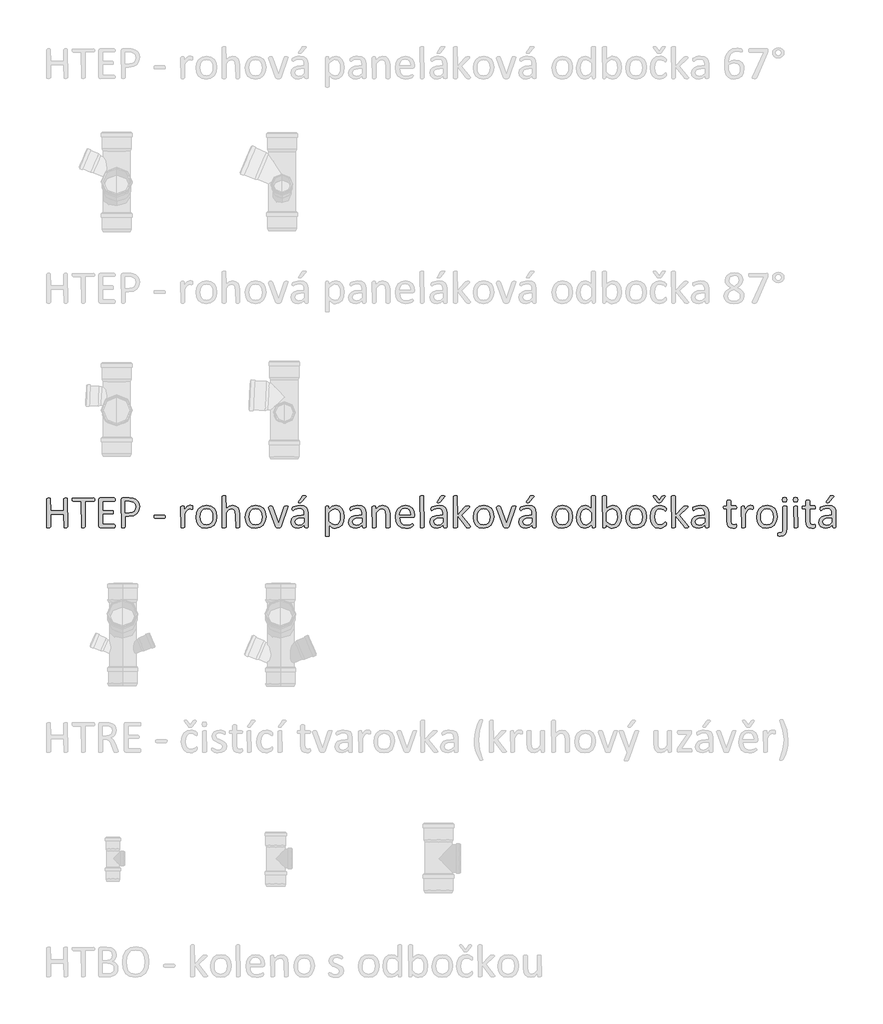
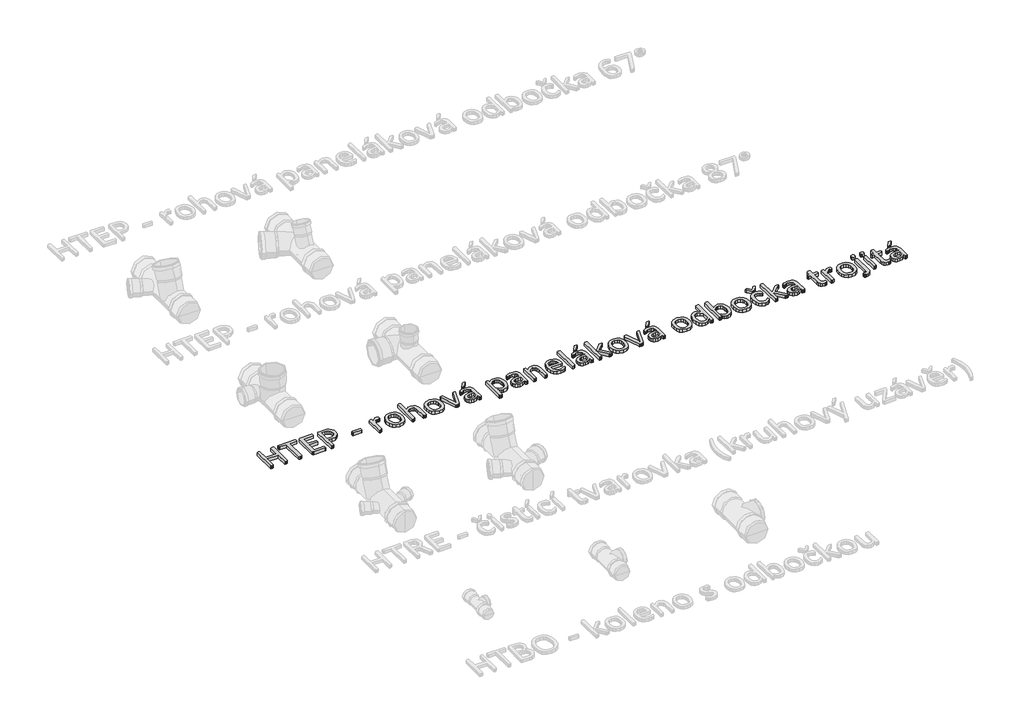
# One storey, part 9 of 26: 1 proxy.
"""IFC4 building model written with IfcOpenShell, lengths in millimetres."""

from ifc_helpers import new_model, si_unit, origin, origin_with_axes, place, context, project, spatial, polyline, outline, extrude, element, save

model = new_model("IFC4")

# Units and contexts
model_context = context("Model", 3, world=origin())
ifc_project = project(units=[si_unit("LENGTHUNIT", "METRE", prefix="MILLI")], contexts=[model_context])

# Site, building, storey
site = spatial("IfcSite", under=ifc_project)
building = spatial("IfcBuilding", under=site)
storey = spatial("IfcBuildingStorey", under=building, Name="Podlaží 1", Elevation=0.0)

# Proxy
placement = place(None, origin())
element("IfcBuildingElementProxy", 1, Name="120mm Arial", ObjectType="120mm Arial", at=placement, inside=storey, context=model_context, shape_type="SweptSolid", body=[
    extrude(outline(polyline([(-20465.0657483, 598.0506997), (-20469.2817655, 595.3184311), (-20473.1358927, 595.0832026), (-20477.1166815, 595.3184311), (-20479.5775327, 595.8612659), (-20481.2784151, 650.6694889), (-20534.5486061, 650.6694889), (-20534.5486061, 598.0145107), (-20538.7465288, 595.3184311), (-20542.6549395, 595.0832026), (-20546.5271613, 595.3184311), (-20549.0603905, 595.8793604), (-20550.7612729, 712.5526591), (-20546.5271613, 715.2849277), (-20542.6549395, 715.5201562), (-20538.7465288, 715.2849277), (-20536.2494886, 714.7239984), (-20534.5486061, 664.5660604), (-20481.2784151, 664.5660604), (-20481.2784151, 712.5526591), (-20477.1166815, 715.2849277), (-20473.1358927, 715.5201562), (-20469.2817655, 715.2849277), (-20466.7666308, 714.7239984), (-20465.0657483, 598.0506997)])), origin_with_axes(), (0.0, 0.0, 1.0), 15.0),
    extrude(outline(polyline([(-20356.2092711, 708.4633034), (-20356.390216, 705.3329559), (-20356.9873343, 703.1978056), (-20393.2667952, 701.6235846), (-20393.2667952, 598.0506997), (-20397.4647179, 595.3184311), (-20401.3731287, 595.0832026), (-20405.2453504, 595.3184311), (-20407.7785796, 595.8793604), (-20409.4794621, 701.6235846), (-20443.3885442, 701.6235846), (-20446.3017578, 705.3329559), (-20446.5369862, 708.4633034), (-20446.3017578, 711.6660289), (-20445.686545, 713.9097462), (-20359.3939021, 715.5201562), (-20357.0054288, 713.9097462), (-20356.390216, 711.6660289), (-20356.2092711, 708.4633034)])), origin_with_axes(), (0.0, 0.0, 1.0), 15.0),
    extrude(outline(polyline([(-20272.8298417, 601.9952994), (-20273.0107867, 598.9192354), (-20273.6621885, 596.7298016), (-20274.7478581, 595.463187), (-20334.0254212, 595.0832026), (-20338.0785879, 596.5307622), (-20339.9966043, 601.5972206), (-20339.9966043, 709.0061382), (-20338.0604934, 714.0725966), (-20333.9530432, 715.5201562), (-20276.0506617, 715.5201562), (-20273.680283, 713.8735572), (-20273.0650701, 711.6841234), (-20272.8298417, 708.4271144), (-20273.0650701, 705.3691449), (-20273.680283, 703.2159001), (-20323.7839374, 701.6235846), (-20323.7839374, 664.5660604), (-20282.9627585, 664.5660604), (-20280.5742852, 662.865178), (-20279.9590724, 660.6757442), (-20279.7781275, 657.3644517), (-20279.9590724, 654.2702932), (-20280.5742852, 652.1713319), (-20323.7839374, 650.6694889), (-20323.7839374, 608.9797742), (-20276.0868507, 608.9797742), (-20273.6621885, 607.3874587), (-20273.0107867, 605.2342139), (-20272.8298417, 601.9952994)])), origin_with_axes(), (0.0, 0.0, 1.0), 15.0),
    extrude(outline(polyline([(-20173.2377455, 680.4892153), (-20176.2052426, 664.3127375), (-20184.7096549, 652.0265759), (-20198.2805255, 644.1735655), (-20217.4606894, 641.4051078), (-20231.140127, 641.4051078), (-20231.140127, 598.0506997), (-20232.8771985, 595.8793604), (-20235.3380497, 595.3184311), (-20239.2464605, 595.0832026), (-20243.1548712, 595.3184311), (-20245.6519114, 595.8793604), (-20247.3527939, 708.6804373), (-20245.3985885, 713.9459352), (-20241.0197209, 715.5201562), (-20215.1807831, 715.5201562), (-20207.6896625, 715.1944553), (-20199.2033447, 713.8011792), (-20189.2151839, 709.838485), (-20180.6022047, 702.6911598), (-20175.1557619, 692.8477549), (-20173.2377455, 680.4892153)]), holes=[polyline([(-20189.4504124, 679.2226008), (-20192.2369645, 691.0021165), (-20199.1309668, 698.0408747), (-20207.6172846, 700.9902773), (-20216.1578858, 701.6235846), (-20231.140127, 701.6235846), (-20231.140127, 655.3016794), (-20216.5197757, 655.3016794), (-20204.3059921, 657.0930343), (-20196.1453752, 662.0509257), (-20191.1512948, 669.6325188), (-20189.4504124, 679.2226008)])]), origin_with_axes(), (0.0, 0.0, 1.0), 15.0),
    extrude(outline(polyline([(-20069.0134588, 640.2832492), (-20069.8639001, 635.7234367), (-20072.3428458, 634.4568221), (-20111.9335991, 634.4568221), (-20114.4849228, 635.7596256), (-20115.335364, 640.2832492), (-20114.4849228, 644.7706838), (-20111.9335991, 646.0372984), (-20072.3428458, 646.0372984), (-20069.2486873, 642.9974233), (-20069.0134588, 640.2832492)])), origin_with_axes(), (0.0, 0.0, 1.0), 15.0),
    extrude(outline(polyline([(-19957.8408864, 676.1465367), (-19957.9313588, 672.8533388), (-19958.2932487, 670.7181885), (-19961.8397696, 669.5058574), (-19964.1739593, 670.3382041), (-19967.0871729, 671.1343618), (-19970.5794103, 671.5143462), (-19974.9944669, 670.519149), (-19979.5361849, 667.2621401), (-19984.5121708, 661.254768), (-19990.26622, 652.0808594), (-19990.26622, 597.9059437), (-19994.3917647, 595.2641476), (-19998.4087424, 595.0832026), (-20002.3533421, 595.2641476), (-20004.8503823, 595.8069824), (-20006.4788868, 680.2720814), (-20002.751421, 682.9500666), (-19999.0963332, 683.0948225), (-19995.5136233, 682.9500666), (-19993.306095, 682.4072317), (-19991.8223465, 668.2573373), (-19985.5616515, 676.8341275), (-19980.0066418, 682.0634363), (-19974.8316164, 684.687138), (-19969.6384966, 685.4109178), (-19966.9967004, 685.2842563), (-19963.8844474, 684.795705), (-19960.9531394, 683.9814527), (-19959.107501, 683.0948225), (-19957.8770754, 679.4035457), (-19957.8408864, 676.1465367)])), origin_with_axes(), (0.0, 0.0, 1.0), 15.0),
    extrude(outline(polyline([(-19860.5648854, 639.9937373), (-19863.2428706, 621.0126129), (-19871.2587315, 606.0665606), (-19884.6124683, 596.2774393), (-19903.1955138, 592.7671074), (-19921.1090631, 595.8612659), (-19933.847587, 604.8542295), (-19941.4472746, 619.1850689), (-19943.9443148, 638.2928548), (-19941.3025186, 657.2739793), (-19933.3409412, 672.201937), (-19920.0414879, 681.9367749), (-19901.4222534, 685.4109178), (-19883.4906096, 682.3167593), (-19870.7520857, 673.3237956), (-19863.1162091, 658.9929562), (-19860.5648854, 639.9937373)]), holes=[polyline([(-19876.7775523, 638.9080676), (-19878.0260724, 651.4837411), (-19882.1335226, 661.8699808), (-19889.8598716, 668.9268335), (-19902.0374662, 671.5143462), (-19913.599848, 669.1439675), (-19921.5614255, 662.4490046), (-19926.2117105, 652.2075209), (-19927.731648, 639.2699575), (-19926.4831279, 626.6219061), (-19922.3394887, 616.2718554), (-19914.5588562, 609.2511916), (-19902.3993561, 606.6636789), (-19890.8731633, 609.0340577), (-19882.8573023, 615.6747371), (-19878.2432063, 625.8800318), (-19876.7775523, 638.9080676)])]), origin_with_axes(), (0.0, 0.0, 1.0), 15.0),
    extrude(outline(polyline([(-19767.921075, 597.9421327), (-19772.0466197, 595.2641476), (-19775.9912195, 595.0832026), (-19780.0081972, 595.2641476), (-19782.4509539, 595.8069824), (-19784.1337419, 646.2906213), (-19785.201317, 657.6539636), (-19788.2954755, 665.0908008), (-19793.5609734, 669.8677472), (-19801.0339995, 671.5143462), (-19812.0173575, 667.479274), (-19823.5073613, 655.6273803), (-19823.5073613, 597.9421327), (-19827.632906, 595.2641476), (-19831.6498837, 595.0832026), (-19835.5944834, 595.2641476), (-19838.0915236, 595.8250769), (-19839.7200281, 721.8170401), (-19835.5944834, 724.6035923), (-19831.6498837, 724.7845372), (-19827.632906, 724.6035923), (-19825.1901492, 724.0426629), (-19823.9054402, 723.1017492), (-19823.5073613, 671.7314801), (-19810.4793254, 682.0453419), (-19797.2703447, 685.4109178), (-19783.4461511, 682.5881767), (-19774.3808095, 675.0427726), (-19769.4229181, 663.9870366), (-19767.921075, 648.6790945), (-19767.921075, 597.9421327)])), origin_with_axes(), (0.0, 0.0, 1.0), 15.0),
    extrude(outline(polyline([(-19661.3806931, 639.9937373), (-19664.0586782, 621.0126129), (-19672.0745392, 606.0665606), (-19685.4282759, 596.2774393), (-19704.0113215, 592.7671074), (-19721.9248707, 595.8612659), (-19734.6633947, 604.8542295), (-19742.2630822, 619.1850689), (-19744.7601224, 638.2928548), (-19742.1183263, 657.2739793), (-19734.1567488, 672.201937), (-19720.8572956, 681.9367749), (-19702.238061, 685.4109178), (-19684.3064173, 682.3167593), (-19671.5678933, 673.3237956), (-19663.9320168, 658.9929562), (-19661.3806931, 639.9937373)]), holes=[polyline([(-19677.5933599, 638.9080676), (-19678.84188, 651.4837411), (-19682.9493302, 661.8699808), (-19690.6756792, 668.9268335), (-19702.8532738, 671.5143462), (-19714.4156556, 669.1439675), (-19722.3772331, 662.4490046), (-19727.0275181, 652.2075209), (-19728.5474556, 639.2699575), (-19727.2989355, 626.6219061), (-19723.1552963, 616.2718554), (-19715.3746638, 609.2511916), (-19703.2151637, 606.6636789), (-19691.6889709, 609.0340577), (-19683.67311, 615.6747371), (-19679.0590139, 625.8800318), (-19677.5933599, 638.9080676)])]), origin_with_axes(), (0.0, 0.0, 1.0), 15.0),
    extrude(outline(polyline([(-19572.0210334, 681.502507), (-19600.5108145, 598.3764006), (-19601.4879172, 596.7298016), (-19603.2973666, 595.7346044), (-19606.3553362, 595.2279586), (-19611.0056212, 595.0832026), (-19615.6197172, 595.2641476), (-19618.6414977, 595.8069824), (-19620.4509472, 596.8202741), (-19621.4642388, 598.3764006), (-19649.8364058, 676.6169936), (-19650.4335241, 678.5169155), (-19646.8327197, 683.00435), (-19643.2500099, 683.0948225), (-19638.9435203, 682.9500666), (-19636.44648, 682.4434207), (-19634.3475187, 680.1635145), (-19610.7884872, 612.2729721), (-19586.8675659, 680.1635145), (-19584.895266, 682.4434207), (-19582.4706038, 682.9500666), (-19578.4355316, 683.0948225), (-19574.9071052, 683.00435), (-19572.0210334, 681.502507)])), origin_with_axes(), (0.0, 0.0, 1.0), 15.0),
    extrude(outline(polyline([(-19515.5028807, 721.4913392), (-19514.1638881, 723.0836547), (-19512.3001552, 724.0607574), (-19509.5678866, 724.6035923), (-19505.6594758, 724.7845372), (-19501.3167972, 724.4769308), (-19499.000702, 723.5903006), (-19499.2540249, 720.6589925), (-19516.5523614, 699.8503242), (-19517.9456374, 698.4208591), (-19519.3751025, 697.5704179), (-19521.4740638, 697.1180555), (-19524.6948838, 696.9913941), (-19528.0242707, 697.2628115), (-19529.7613421, 697.9865913), (-19529.3632633, 700.8274268), (-19515.5028807, 721.4913392)])), origin_with_axes(), (0.0, 0.0, 1.0), 15.0),
    extrude(outline(polyline([(-19489.9896438, 597.8697547), (-19490.7858016, 596.1869668), (-19492.9571409, 595.35462), (-19497.0103076, 595.0832026), (-19501.1177578, 595.35462), (-19503.3433806, 596.1869668), (-19504.0309714, 597.8697547), (-19504.0309714, 606.1932221), (-19516.2266605, 596.5669512), (-19530.4851219, 592.7671074), (-19542.4455826, 594.4860843), (-19551.5471132, 599.4620702), (-19557.3916348, 607.4598367), (-19559.4725016, 618.2441552), (-19556.5954771, 630.5122223), (-19548.3443877, 639.1613906), (-19535.1896904, 644.3183214), (-19517.67422, 646.0372984), (-19506.2023107, 646.0372984), (-19506.2023107, 652.9493951), (-19507.2156023, 661.9966423), (-19510.4726113, 668.5468492), (-19516.2809439, 672.4914489), (-19525.0567736, 673.8304415), (-19535.0992179, 672.3828819), (-19542.8798504, 669.198251), (-19548.4710492, 666.01362), (-19551.8004361, 664.5660604), (-19554.6593662, 668.0944868), (-19554.8403111, 670.7543775), (-19554.5146102, 674.5542212), (-19552.9222947, 677.2141119), (-19548.5796161, 679.928286), (-19541.4865744, 682.6062712), (-19532.7107447, 684.61476), (-19523.1025683, 685.4109178), (-19507.7222482, 683.3662399), (-19497.46267, 677.3950568), (-19491.7629043, 667.6421245), (-19489.9896438, 654.0350648), (-19489.9896438, 597.8697547)]), holes=[polyline([(-19506.2023107, 634.4568221), (-19519.0855905, 634.4568221), (-19529.8337201, 633.3892469), (-19537.4153132, 630.2408049), (-19541.8484643, 625.2467245), (-19543.2598348, 618.5336671), (-19539.2066681, 608.1836164), (-19527.8433257, 604.3475837), (-19516.8418733, 607.4055532), (-19506.2023107, 616.7604067), (-19506.2023107, 634.4568221)])]), origin_with_axes(), (0.0, 0.0, 1.0), 15.0),
    extrude(outline(polyline([(-19344.0756425, 640.3556272), (-19346.3917377, 620.505967), (-19353.1952675, 605.5599148), (-19364.3233815, 596.0964943), (-19379.5046621, 592.7671074), (-19386.2177195, 593.5089816), (-19392.2612806, 595.8612659), (-19398.1238967, 599.8963381), (-19404.2941192, 605.6141983), (-19404.2941192, 563.3454598), (-19405.9769072, 561.083648), (-19408.4196639, 560.5227187), (-19412.4366416, 560.3417737), (-19416.3812414, 560.5227187), (-19418.8782816, 561.083648), (-19420.1629907, 562.0245617), (-19420.1629907, 680.1997034), (-19416.7793202, 682.9500666), (-19413.4137443, 683.0948225), (-19410.0300739, 682.9681611), (-19407.8225456, 682.4977042), (-19406.2483246, 669.8496527), (-19399.0648104, 676.6893716), (-19392.0984301, 681.5206015), (-19384.8968214, 684.4338151), (-19377.1161889, 685.4109178), (-19361.9168138, 681.8463024), (-19351.67533, 672.1114645), (-19345.9031864, 657.7444361), (-19344.0756425, 640.3556272)]), holes=[polyline([(-19360.2883093, 638.5823667), (-19361.229223, 650.8504338), (-19364.4681374, 661.3814295), (-19370.63836, 668.7458886), (-19380.2646309, 671.5143462), (-19385.9463021, 670.663905), (-19391.6098788, 667.9497309), (-19397.6353453, 663.0642174), (-19404.2941192, 655.6273803), (-19404.2941192, 622.080188), (-19392.6955484, 610.6263732), (-19381.1693556, 606.6636789), (-19371.5792737, 609.4321366), (-19365.1014447, 616.7965957), (-19361.4644514, 627.0923629), (-19360.2883093, 638.5823667)])]), origin_with_axes(), (0.0, 0.0, 1.0), 15.0),
    extrude(outline(polyline([(-19256.0640226, 597.8697547), (-19256.8601803, 596.1869668), (-19259.0315196, 595.35462), (-19263.0846863, 595.0832026), (-19267.1921365, 595.35462), (-19269.4177593, 596.1869668), (-19270.1053501, 597.8697547), (-19270.1053501, 606.1932221), (-19282.3010392, 596.5669512), (-19296.5595006, 592.7671074), (-19308.5199613, 594.4860843), (-19317.6214919, 599.4620702), (-19323.4660135, 607.4598367), (-19325.5468804, 618.2441552), (-19322.6698558, 630.5122223), (-19314.4187664, 639.1613906), (-19301.2640691, 644.3183214), (-19283.7485987, 646.0372984), (-19272.2766894, 646.0372984), (-19272.2766894, 652.9493951), (-19273.2899811, 661.9966423), (-19276.54699, 668.5468492), (-19282.3553227, 672.4914489), (-19291.1311524, 673.8304415), (-19301.1735967, 672.3828819), (-19308.9542292, 669.198251), (-19314.5454279, 666.01362), (-19317.8748148, 664.5660604), (-19320.7337449, 668.0944868), (-19320.9146899, 670.7543775), (-19320.588989, 674.5542212), (-19318.9966735, 677.2141119), (-19314.6539949, 679.928286), (-19307.5609531, 682.6062712), (-19298.7851234, 684.61476), (-19289.176947, 685.4109178), (-19273.7966269, 683.3662399), (-19263.5370487, 677.3950568), (-19257.837283, 667.6421245), (-19256.0640226, 654.0350648), (-19256.0640226, 597.8697547)]), holes=[polyline([(-19272.2766894, 634.4568221), (-19285.1599693, 634.4568221), (-19295.9080988, 633.3892469), (-19303.4896919, 630.2408049), (-19307.922843, 625.2467245), (-19309.3342136, 618.5336671), (-19305.2810469, 608.1836164), (-19293.9177045, 604.3475837), (-19282.916252, 607.4055532), (-19272.2766894, 616.7604067), (-19272.2766894, 634.4568221)])]), origin_with_axes(), (0.0, 0.0, 1.0), 15.0),
    extrude(outline(polyline([(-19158.7880217, 597.9421327), (-19162.9135663, 595.2641476), (-19166.8581661, 595.0832026), (-19170.8751438, 595.2641476), (-19173.3179005, 595.8069824), (-19175.0006885, 646.2906213), (-19176.0682636, 657.6539636), (-19179.1624222, 665.0908008), (-19184.42792, 669.8677472), (-19191.9009461, 671.5143462), (-19202.8843041, 667.479274), (-19214.3743079, 655.6273803), (-19214.3743079, 597.9421327), (-19218.4998526, 595.2641476), (-19222.5168303, 595.0832026), (-19226.46143, 595.2641476), (-19228.9584702, 595.8069824), (-19230.5869747, 680.2720814), (-19226.8595089, 682.9500666), (-19223.2044211, 683.0948225), (-19219.6217112, 682.9500666), (-19217.4141829, 682.4072317), (-19215.9304344, 669.3791959), (-19202.0881463, 681.5567905), (-19188.1734803, 685.4109178), (-19174.3492867, 682.5881767), (-19165.2658506, 675.0427726), (-19160.2898647, 663.9870366), (-19158.7880217, 648.7514725), (-19158.7880217, 597.9421327)])), origin_with_axes(), (0.0, 0.0, 1.0), 15.0),
    extrude(outline(polyline([(-19059.1959255, 643.3955022), (-19060.9872804, 638.2928548), (-19065.0947306, 636.7729173), (-19119.4144022, 636.7729173), (-19118.0573152, 623.3829916), (-19113.5517861, 613.1776969), (-19105.3368857, 606.6274899), (-19092.9602517, 604.3475837), (-19082.682579, 605.4151588), (-19074.8657575, 607.8217266), (-19069.4555037, 610.2282943), (-19066.2527782, 611.2958695), (-19063.9547775, 608.4007504), (-19063.828116, 605.7589542), (-19063.9185885, 603.8228433), (-19068.369834, 598.4306841), (-19074.7210015, 595.9336439), (-19083.7682486, 593.7442101), (-19094.7335121, 592.7671074), (-19112.411833, 595.6622265), (-19125.1684514, 604.2752057), (-19132.9852729, 618.6241396), (-19135.6270691, 638.6547447), (-19132.8586114, 658.1967985), (-19124.8789395, 672.8895278), (-19112.2851715, 682.1720033), (-19095.7468038, 685.4109178), (-19079.0998691, 682.2805703), (-19067.7908102, 673.848536), (-19061.2767923, 661.4176184), (-19059.1959255, 646.1820543), (-19059.1959255, 643.3955022)]), holes=[polyline([(-19075.4085923, 648.3533936), (-19076.5802108, 658.9793853), (-19080.6017121, 667.0450061), (-19087.3735766, 672.1340826), (-19096.7962845, 673.8304415), (-19106.4406499, 671.7314801), (-19113.3708412, 666.1402814), (-19117.6954253, 658.0158535), (-19119.4144022, 648.3533936), (-19075.4085923, 648.3533936)])]), origin_with_axes(), (0.0, 0.0, 1.0), 15.0),
    extrude(outline(polyline([(-19019.8223061, 597.9421327), (-19023.9478507, 595.2641476), (-19027.9648285, 595.0832026), (-19031.9094282, 595.2641476), (-19034.4064684, 595.8250769), (-19036.0349729, 721.8170401), (-19031.9094282, 724.6035923), (-19027.9648285, 724.7845372), (-19023.9478507, 724.6035923), (-19021.505094, 724.0426629), (-19019.8223061, 597.9421327)])), origin_with_axes(), (0.0, 0.0, 1.0), 15.0),
    extrude(outline(polyline([(-18952.6917325, 721.4913392), (-18951.3527399, 723.0836547), (-18949.489007, 724.0607574), (-18946.7567384, 724.6035923), (-18942.8483277, 724.7845372), (-18938.505649, 724.4769308), (-18936.1895538, 723.5903006), (-18936.4428767, 720.6589925), (-18953.7412132, 699.8503242), (-18955.1344892, 698.4208591), (-18956.5639543, 697.5704179), (-18958.6629156, 697.1180555), (-18961.8837356, 696.9913941), (-18965.2131225, 697.2628115), (-18966.950194, 697.9865913), (-18966.5521151, 700.8274268), (-18952.6917325, 721.4913392)])), origin_with_axes(), (0.0, 0.0, 1.0), 15.0),
    extrude(outline(polyline([(-18927.1784957, 597.8697547), (-18927.9746534, 596.1869668), (-18930.1459927, 595.35462), (-18934.1991594, 595.0832026), (-18938.3066096, 595.35462), (-18940.5322324, 596.1869668), (-18941.2198232, 597.8697547), (-18941.2198232, 606.1932221), (-18953.4155123, 596.5669512), (-18967.6739737, 592.7671074), (-18979.6344344, 594.4860843), (-18988.735965, 599.4620702), (-18994.5804866, 607.4598367), (-18996.6613535, 618.2441552), (-18993.7843289, 630.5122223), (-18985.5332395, 639.1613906), (-18972.3785422, 644.3183214), (-18954.8630718, 646.0372984), (-18943.3911625, 646.0372984), (-18943.3911625, 652.9493951), (-18944.4044542, 661.9966423), (-18947.6614631, 668.5468492), (-18953.4697958, 672.4914489), (-18962.2456255, 673.8304415), (-18972.2880697, 672.3828819), (-18980.0687023, 669.198251), (-18985.659901, 666.01362), (-18988.9892879, 664.5660604), (-18991.848218, 668.0944868), (-18992.0291629, 670.7543775), (-18991.703462, 674.5542212), (-18990.1111466, 677.2141119), (-18985.7684679, 679.928286), (-18978.6754262, 682.6062712), (-18969.8995965, 684.61476), (-18960.2914201, 685.4109178), (-18944.9111, 683.3662399), (-18934.6515218, 677.3950568), (-18928.9517561, 667.6421245), (-18927.1784957, 654.0350648), (-18927.1784957, 597.8697547)]), holes=[polyline([(-18943.3911625, 634.4568221), (-18956.2744424, 634.4568221), (-18967.0225719, 633.3892469), (-18974.604165, 630.2408049), (-18979.0373161, 625.2467245), (-18980.4486866, 618.5336671), (-18976.3955199, 608.1836164), (-18965.0321776, 604.3475837), (-18954.0307251, 607.4055532), (-18943.3911625, 616.7604067), (-18943.3911625, 634.4568221)])]), origin_with_axes(), (0.0, 0.0, 1.0), 15.0),
    extrude(outline(polyline([(-18832.21859, 598.0145107), (-18836.2898512, 595.2641476), (-18840.2887344, 595.0832026), (-18844.4142791, 595.2279586), (-18847.1646422, 595.6803209), (-18848.9740916, 596.5850457), (-18850.2407062, 598.0145107), (-18885.488781, 643.5764471), (-18885.488781, 597.9059437), (-18889.6143257, 595.2641476), (-18893.6313034, 595.0832026), (-18897.5759031, 595.2641476), (-18900.0729433, 595.8250769), (-18901.7014478, 721.8170401), (-18897.5759031, 724.6035923), (-18893.6313034, 724.7845372), (-18889.6143257, 724.6035923), (-18887.1715689, 724.0426629), (-18885.8868599, 723.1017492), (-18885.488781, 645.6754085), (-18853.2805813, 679.9101915), (-18851.6701713, 681.4120346), (-18849.6435879, 682.4072317), (-18846.8570358, 682.9500666), (-18842.9667196, 683.0948225), (-18838.9859308, 682.9500666), (-18836.3984182, 682.4977042), (-18834.9689531, 681.683452), (-18835.1679926, 678.1550256), (-18837.2850484, 675.6037019), (-18869.2761142, 645.7839754), (-18834.4984963, 602.3210003), (-18832.7433303, 599.8058656), (-18832.21859, 598.0145107)])), origin_with_axes(), (0.0, 0.0, 1.0), 15.0),
    extrude(outline(polyline([(-18737.2586843, 639.9937373), (-18739.9366695, 621.0126129), (-18747.9525304, 606.0665606), (-18761.3062672, 596.2774393), (-18779.8893127, 592.7671074), (-18797.802862, 595.8612659), (-18810.5413859, 604.8542295), (-18818.1410735, 619.1850689), (-18820.6381137, 638.2928548), (-18817.9963175, 657.2739793), (-18810.0347401, 672.201937), (-18796.7352868, 681.9367749), (-18778.1160523, 685.4109178), (-18760.1844085, 682.3167593), (-18747.4458846, 673.3237956), (-18739.810008, 658.9929562), (-18737.2586843, 639.9937373)]), holes=[polyline([(-18753.4713512, 638.9080676), (-18754.7198713, 651.4837411), (-18758.8273214, 661.8699808), (-18766.5536705, 668.9268335), (-18778.7312651, 671.5143462), (-18790.2936469, 669.1439675), (-18798.2552243, 662.4490046), (-18802.9055094, 652.2075209), (-18804.4254469, 639.2699575), (-18803.1769268, 626.6219061), (-18799.0332876, 616.2718554), (-18791.2526551, 609.2511916), (-18779.093155, 606.6636789), (-18767.5669622, 609.0340577), (-18759.5511012, 615.6747371), (-18754.9370052, 625.8800318), (-18753.4713512, 638.9080676)])]), origin_with_axes(), (0.0, 0.0, 1.0), 15.0),
    extrude(outline(polyline([(-18647.8990246, 681.502507), (-18676.3888058, 598.3764006), (-18677.3659085, 596.7298016), (-18679.1753579, 595.7346044), (-18682.2333274, 595.2279586), (-18686.8836124, 595.0832026), (-18691.4977085, 595.2641476), (-18694.519489, 595.8069824), (-18696.3289384, 596.8202741), (-18697.3422301, 598.3764006), (-18725.714397, 676.6169936), (-18726.3115153, 678.5169155), (-18722.710711, 683.00435), (-18719.1280011, 683.0948225), (-18714.8215115, 682.9500666), (-18712.3244713, 682.4434207), (-18710.22551, 680.1635145), (-18686.6664785, 612.2729721), (-18662.7455571, 680.1635145), (-18660.7732573, 682.4434207), (-18658.348595, 682.9500666), (-18654.3135228, 683.0948225), (-18650.7850965, 683.00435), (-18647.8990246, 681.502507)])), origin_with_axes(), (0.0, 0.0, 1.0), 15.0),
    extrude(outline(polyline([(-18565.8676351, 597.8697547), (-18566.6637928, 596.1869668), (-18568.8351321, 595.35462), (-18572.8882989, 595.0832026), (-18576.995749, 595.35462), (-18579.2213718, 596.1869668), (-18579.9089626, 597.8697547), (-18579.9089626, 606.1932221), (-18592.1046517, 596.5669512), (-18606.3631132, 592.7671074), (-18618.3235738, 594.4860843), (-18627.4251044, 599.4620702), (-18633.2696261, 607.4598367), (-18635.3504929, 618.2441552), (-18632.4734683, 630.5122223), (-18624.222379, 639.1613906), (-18611.0676817, 644.3183214), (-18593.5522113, 646.0372984), (-18582.0803019, 646.0372984), (-18582.0803019, 652.9493951), (-18583.0935936, 661.9966423), (-18586.3506026, 668.5468492), (-18592.1589352, 672.4914489), (-18600.9347649, 673.8304415), (-18610.9772092, 672.3828819), (-18618.7578417, 669.198251), (-18624.3490404, 666.01362), (-18627.6784273, 664.5660604), (-18630.5373574, 668.0944868), (-18630.7183024, 670.7543775), (-18630.3926015, 674.5542212), (-18628.800286, 677.2141119), (-18624.4576074, 679.928286), (-18617.3645656, 682.6062712), (-18608.5887359, 684.61476), (-18598.9805595, 685.4109178), (-18583.6002394, 683.3662399), (-18573.3406612, 677.3950568), (-18567.6408955, 667.6421245), (-18565.8676351, 654.0350648), (-18565.8676351, 597.8697547)]), holes=[polyline([(-18582.0803019, 634.4568221), (-18594.9635818, 634.4568221), (-18605.7117114, 633.3892469), (-18613.2933044, 630.2408049), (-18617.7264555, 625.2467245), (-18619.1378261, 618.5336671), (-18615.0846594, 608.1836164), (-18603.721317, 604.3475837), (-18592.7198645, 607.4055532), (-18582.0803019, 616.7604067), (-18582.0803019, 634.4568221)])]), origin_with_axes(), (0.0, 0.0, 1.0), 15.0),
    extrude(outline(polyline([(-18591.3808719, 721.4913392), (-18590.0418794, 723.0836547), (-18588.1781465, 724.0607574), (-18585.4458778, 724.6035923), (-18581.5374671, 724.7845372), (-18577.1947885, 724.4769308), (-18574.8786932, 723.5903006), (-18575.1320161, 720.6589925), (-18592.4303526, 699.8503242), (-18593.8236287, 698.4208591), (-18595.2530937, 697.5704179), (-18597.352055, 697.1180555), (-18600.572875, 696.9913941), (-18603.9022619, 697.2628115), (-18605.6393334, 697.9865913), (-18605.2412545, 700.8274268), (-18591.3808719, 721.4913392)])), origin_with_axes(), (0.0, 0.0, 1.0), 15.0),
    extrude(outline(polyline([(-18417.6375385, 639.9937373), (-18420.3155236, 621.0126129), (-18428.3313845, 606.0665606), (-18441.6851213, 596.2774393), (-18460.2681668, 592.7671074), (-18478.1817161, 595.8612659), (-18490.92024, 604.8542295), (-18498.5199276, 619.1850689), (-18501.0169678, 638.2928548), (-18498.3751717, 657.2739793), (-18490.4135942, 672.201937), (-18477.114141, 681.9367749), (-18458.4949064, 685.4109178), (-18440.5632626, 682.3167593), (-18427.8247387, 673.3237956), (-18420.1888621, 658.9929562), (-18417.6375385, 639.9937373)]), holes=[polyline([(-18433.8502053, 638.9080676), (-18435.0987254, 651.4837411), (-18439.2061756, 661.8699808), (-18446.9325246, 668.9268335), (-18459.1101192, 671.5143462), (-18470.672501, 669.1439675), (-18478.6340785, 662.4490046), (-18483.2843635, 652.2075209), (-18484.804301, 639.2699575), (-18483.5557809, 626.6219061), (-18479.4121417, 616.2718554), (-18471.6315092, 609.2511916), (-18459.4720091, 606.6636789), (-18447.9458163, 609.0340577), (-18439.9299553, 615.6747371), (-18435.3158593, 625.8800318), (-18433.8502053, 638.9080676)])]), origin_with_axes(), (0.0, 0.0, 1.0), 15.0),
    extrude(outline(polyline([(-18325.319429, 597.9783217), (-18328.7030994, 595.2641476), (-18332.0143918, 595.0832026), (-18335.4523457, 595.2641476), (-18337.696063, 595.7346044), (-18339.3607565, 608.0388605), (-18352.8049657, 596.8021796), (-18368.0586243, 592.7671074), (-18383.4751334, 596.3679117), (-18393.8070896, 606.1027496), (-18399.5973277, 620.542156), (-18401.4248716, 638.0033429), (-18399.1449654, 657.6358691), (-18392.4138135, 672.5819214), (-18381.376172, 682.0815308), (-18366.1406079, 685.4109178), (-18352.9859106, 682.1720033), (-18341.2063949, 672.6723938), (-18341.2063949, 721.7808512), (-18339.5417014, 723.9883794), (-18337.0446612, 724.5493088), (-18333.2086284, 724.7845372), (-18329.1916507, 724.5493088), (-18326.748894, 723.9883794), (-18325.4279959, 723.0655602), (-18325.319429, 597.9783217)]), holes=[polyline([(-18341.2063949, 656.1702151), (-18352.8230602, 667.587841), (-18364.5121034, 671.5143462), (-18374.1021854, 668.7639831), (-18380.5076363, 661.5080909), (-18384.0903462, 651.3027962), (-18385.2122048, 639.7404144), (-18384.2712911, 627.5085363), (-18380.9961877, 616.9051627), (-18374.8078706, 609.4683255), (-18365.1273162, 606.6636789), (-18359.445645, 607.4779312), (-18353.8363518, 610.1740108), (-18347.8470743, 615.0595243), (-18341.2063949, 622.4782669), (-18341.2063949, 656.1702151)])]), origin_with_axes(), (0.0, 0.0, 1.0), 15.0),
    extrude(outline(polyline([(-18220.7694414, 640.1746822), (-18223.0855366, 620.4516835), (-18229.9071609, 605.5056313), (-18240.9809914, 596.0422108), (-18256.0175161, 592.7671074), (-18263.2553138, 593.5632651), (-18269.7693317, 596.1507778), (-18276.1385937, 600.6563069), (-18282.8697455, 607.2065138), (-18282.8697455, 597.7611878), (-18286.7600618, 595.2641476), (-18290.1437322, 595.0832026), (-18293.4731191, 595.2641476), (-18295.7349309, 595.7707934), (-18297.2005849, 721.8170401), (-18293.0750403, 724.6035923), (-18289.1304405, 724.7845372), (-18285.1134628, 724.6035923), (-18282.6707061, 724.0426629), (-18281.385997, 723.1017492), (-18280.9879181, 671.5505352), (-18273.9491599, 678.0102696), (-18267.2722915, 682.2805703), (-18260.7401791, 684.6690435), (-18253.8461768, 685.4109178), (-18238.6287072, 681.7558299), (-18228.3510344, 671.9667086), (-18222.5788908, 657.5815857), (-18220.7694414, 640.1746822)]), holes=[polyline([(-18236.9821082, 638.4014218), (-18237.9230219, 650.7237724), (-18241.2162198, 661.3090515), (-18247.4226313, 668.7096996), (-18257.0669968, 671.5143462), (-18262.712479, 670.700094), (-18268.3760556, 667.9859198), (-18274.3653332, 663.1185009), (-18280.9879181, 655.6273803), (-18280.9879181, 622.00781), (-18269.2988749, 610.5901842), (-18257.6822096, 606.6636789), (-18248.1464111, 609.4321366), (-18241.7047712, 616.7423122), (-18238.1039668, 626.947607), (-18236.9821082, 638.4014218)])]), origin_with_axes(), (0.0, 0.0, 1.0), 15.0),
    extrude(outline(polyline([(-18118.8612499, 639.9937373), (-18121.5392351, 621.0126129), (-18129.555096, 606.0665606), (-18142.9088327, 596.2774393), (-18161.4918783, 592.7671074), (-18179.4054276, 595.8612659), (-18192.1439515, 604.8542295), (-18199.7436391, 619.1850689), (-18202.2406793, 638.2928548), (-18199.5988831, 657.2739793), (-18191.6373057, 672.201937), (-18178.3378524, 681.9367749), (-18159.7186179, 685.4109178), (-18141.7869741, 682.3167593), (-18129.0484502, 673.3237956), (-18121.4125736, 658.9929562), (-18118.8612499, 639.9937373)]), holes=[polyline([(-18135.0739167, 638.9080676), (-18136.3224368, 651.4837411), (-18140.429887, 661.8699808), (-18148.1562361, 668.9268335), (-18160.3338307, 671.5143462), (-18171.8962125, 669.1439675), (-18179.8577899, 662.4490046), (-18184.5080749, 652.2075209), (-18186.0280125, 639.2699575), (-18184.7794924, 626.6219061), (-18180.6358532, 616.2718554), (-18172.8552207, 609.2511916), (-18160.6957205, 606.6636789), (-18149.1695277, 609.0340577), (-18141.1536668, 615.6747371), (-18136.5395708, 625.8800318), (-18135.0739167, 638.9080676)])]), origin_with_axes(), (0.0, 0.0, 1.0), 15.0),
    extrude(outline(polyline([(-18055.1686303, 722.1065521), (-18054.0105826, 723.3912611), (-18050.7173847, 724.6578757), (-18047.8222656, 724.7845372), (-18044.0405163, 724.4769308), (-18042.2310669, 723.5903006), (-18043.588154, 719.7904568), (-18058.5342062, 699.3074893), (-18059.7103483, 698.1494417), (-18061.3026638, 697.4799454), (-18063.6187591, 697.1180555), (-18066.9662405, 696.9913941), (-18070.1146825, 697.1180555), (-18072.3403053, 697.5161344), (-18073.8783373, 698.2399142), (-18089.9100592, 719.7904568), (-18091.3033352, 722.0160796), (-18089.4034133, 724.4769308), (-18085.6397585, 724.7845372), (-18082.5275055, 724.6578757), (-18080.6456781, 724.2055134), (-18078.3295829, 722.1065521), (-18066.7491066, 705.9300742), (-18055.1686303, 722.1065521)])), origin_with_axes(), (0.0, 0.0, 1.0), 15.0),
    extrude(outline(polyline([(-18037.7979158, 611.7301373), (-18037.8883883, 609.1969081), (-18038.2140892, 607.3874587), (-18040.2044835, 603.7504654), (-18044.0947998, 600.222039), (-18050.2650223, 596.4764787), (-18057.7018595, 593.7984935), (-18066.0253268, 592.7671074), (-18081.7313478, 595.7707934), (-18093.1851626, 604.5466231), (-18100.2239209, 618.6965176), (-18102.6485831, 638.0395319), (-18099.681086, 659.4815076), (-18091.5566581, 674.1561424), (-18079.4152525, 682.6424602), (-18064.2882554, 685.4109178), (-18056.6523788, 684.5966655), (-18049.848849, 682.4615152), (-18044.3119337, 679.4216402), (-18040.8016019, 676.4722376), (-18039.2997588, 674.5361267), (-18038.6121681, 672.9980947), (-18038.2502782, 671.0981728), (-18038.1598057, 668.4382822), (-18038.9740579, 663.6251467), (-18040.9463578, 662.2499652), (-18044.0767053, 663.6975247), (-18048.5460454, 666.8821557), (-18055.1143468, 670.0667867), (-18064.1796884, 671.5143462), (-18073.701916, 669.4153849), (-18080.6999616, 663.1185009), (-18085.0019276, 652.8227337), (-18086.4359163, 638.7271227), (-18084.9521677, 624.7219842), (-18080.5733001, 614.6614454), (-18073.4621639, 608.6359788), (-18063.8177985, 606.6636789), (-18054.7886459, 608.4912229), (-18048.057494, 612.5082006), (-18043.2624531, 616.4708948), (-18040.222578, 618.2441552), (-18037.9245773, 614.6795399), (-18037.7979158, 611.7301373)])), origin_with_axes(), (0.0, 0.0, 1.0), 15.0),
    extrude(outline(polyline([(-17947.4702007, 598.0145107), (-17951.5414619, 595.2641476), (-17955.5403451, 595.0832026), (-17959.6658898, 595.2279586), (-17962.4162529, 595.6803209), (-17964.2257023, 596.5850457), (-17965.4923169, 598.0145107), (-18000.7403917, 643.5764471), (-18000.7403917, 597.9059437), (-18004.8659363, 595.2641476), (-18008.8829141, 595.0832026), (-18012.8275138, 595.2641476), (-18015.324554, 595.8250769), (-18016.9530585, 721.8170401), (-18012.8275138, 724.6035923), (-18008.8829141, 724.7845372), (-18004.8659363, 724.6035923), (-18002.4231796, 724.0426629), (-18001.1384705, 723.1017492), (-18000.7403917, 645.6754085), (-17968.5321919, 679.9101915), (-17966.921782, 681.4120346), (-17964.8951986, 682.4072317), (-17962.1086465, 682.9500666), (-17958.2183302, 683.0948225), (-17954.2375415, 682.9500666), (-17951.6500288, 682.4977042), (-17950.2205638, 681.683452), (-17950.4196032, 678.1550256), (-17952.5366591, 675.6037019), (-17984.5277248, 645.7839754), (-17949.7501069, 602.3210003), (-17947.994941, 599.8058656), (-17947.4702007, 598.0145107)])), origin_with_axes(), (0.0, 0.0, 1.0), 15.0),
    extrude(outline(polyline([(-17866.4068666, 597.8697547), (-17867.2030243, 596.1869668), (-17869.3743636, 595.35462), (-17873.4275303, 595.0832026), (-17877.5349805, 595.35462), (-17879.7606033, 596.1869668), (-17880.4481941, 597.8697547), (-17880.4481941, 606.1932221), (-17892.6438832, 596.5669512), (-17906.9023446, 592.7671074), (-17918.8628053, 594.4860843), (-17927.9643359, 599.4620702), (-17933.8088575, 607.4598367), (-17935.8897244, 618.2441552), (-17933.0126998, 630.5122223), (-17924.7616104, 639.1613906), (-17911.6069131, 644.3183214), (-17894.0914427, 646.0372984), (-17882.6195334, 646.0372984), (-17882.6195334, 652.9493951), (-17883.6328251, 661.9966423), (-17886.889834, 668.5468492), (-17892.6981667, 672.4914489), (-17901.4739964, 673.8304415), (-17911.5164407, 672.3828819), (-17919.2970732, 669.198251), (-17924.8882719, 666.01362), (-17928.2176588, 664.5660604), (-17931.0765889, 668.0944868), (-17931.2575339, 670.7543775), (-17930.931833, 674.5542212), (-17929.3395175, 677.2141119), (-17924.9968389, 679.928286), (-17917.9037971, 682.6062712), (-17909.1279674, 684.61476), (-17899.519791, 685.4109178), (-17884.1394709, 683.3662399), (-17873.8798927, 677.3950568), (-17868.180127, 667.6421245), (-17866.4068666, 654.0350648), (-17866.4068666, 597.8697547)]), holes=[polyline([(-17882.6195334, 634.4568221), (-17895.5028133, 634.4568221), (-17906.2509428, 633.3892469), (-17913.8325359, 630.2408049), (-17918.265687, 625.2467245), (-17919.6770576, 618.5336671), (-17915.6238908, 608.1836164), (-17904.2605485, 604.3475837), (-17893.259096, 607.4055532), (-17882.6195334, 616.7604067), (-17882.6195334, 634.4568221)])]), origin_with_axes(), (0.0, 0.0, 1.0), 15.0),
    extrude(outline(polyline([(-17752.9181988, 603.40667), (-17753.2800887, 598.8830464), (-17754.3838529, 596.4221952), (-17756.5913812, 594.9384467), (-17759.9388626, 593.7984935), (-17763.9377458, 593.0566193), (-17768.153763, 592.7671074), (-17779.1733099, 594.5222733), (-17786.682525, 599.8239601), (-17790.9528257, 608.8169237), (-17792.2918183, 621.6821091), (-17792.2918183, 671.5143462), (-17803.2932707, 671.5143462), (-17805.4103266, 672.8714333), (-17806.1883898, 677.2683954), (-17805.9712559, 679.964475), (-17805.4103266, 681.7920189), (-17792.2918183, 683.0948225), (-17792.2918183, 703.2520891), (-17790.6633138, 705.4596174), (-17788.1662736, 706.0748302), (-17784.2216738, 706.2557751), (-17780.2046961, 706.0748302), (-17777.7619394, 705.4596174), (-17776.4772303, 704.4644202), (-17776.0791514, 683.0948225), (-17755.8133179, 683.0948225), (-17753.0991438, 679.964475), (-17752.9181988, 677.2683954), (-17753.7143566, 672.8714333), (-17755.8133179, 671.5143462), (-17776.0791514, 671.5143462), (-17776.0791514, 624.3239053), (-17773.6725837, 611.133019), (-17765.04151, 606.6636789), (-17761.4407056, 607.0798523), (-17758.636059, 607.948388), (-17756.5190032, 608.8350182), (-17754.9447822, 609.2692861), (-17753.0991438, 606.337978), (-17752.9181988, 603.40667)])), origin_with_axes(), (0.0, 0.0, 1.0), 15.0),
    extrude(outline(polyline([(-17685.7514363, 676.1465367), (-17685.8419088, 672.8533388), (-17686.2037986, 670.7181885), (-17689.7503195, 669.5058574), (-17692.0845093, 670.3382041), (-17694.9977228, 671.1343618), (-17698.4899602, 671.5143462), (-17702.9050168, 670.519149), (-17707.4467349, 667.2621401), (-17712.4227208, 661.254768), (-17718.1767699, 652.0808594), (-17718.1767699, 597.9059437), (-17722.3023146, 595.2641476), (-17726.3192923, 595.0832026), (-17730.2638921, 595.2641476), (-17732.7609323, 595.8069824), (-17734.3894368, 680.2720814), (-17730.6619709, 682.9500666), (-17727.0068831, 683.0948225), (-17723.4241733, 682.9500666), (-17721.216645, 682.4072317), (-17719.7328964, 668.2573373), (-17713.4722014, 676.8341275), (-17707.9171917, 682.0634363), (-17702.7421664, 684.687138), (-17697.5490465, 685.4109178), (-17694.9072504, 685.2842563), (-17691.7949974, 684.795705), (-17688.8636893, 683.9814527), (-17687.0180509, 683.0948225), (-17685.7876253, 679.4035457), (-17685.7514363, 676.1465367)])), origin_with_axes(), (0.0, 0.0, 1.0), 15.0),
    extrude(outline(polyline([(-17588.4754354, 639.9937373), (-17591.1534205, 621.0126129), (-17599.1692815, 606.0665606), (-17612.5230182, 596.2774393), (-17631.1060638, 592.7671074), (-17649.019613, 595.8612659), (-17661.758137, 604.8542295), (-17669.3578245, 619.1850689), (-17671.8548647, 638.2928548), (-17669.2130686, 657.2739793), (-17661.2514911, 672.201937), (-17647.9520379, 681.9367749), (-17629.3328033, 685.4109178), (-17611.4011595, 682.3167593), (-17598.6626356, 673.3237956), (-17591.0267591, 658.9929562), (-17588.4754354, 639.9937373)]), holes=[polyline([(-17604.6881022, 638.9080676), (-17605.9366223, 651.4837411), (-17610.0440725, 661.8699808), (-17617.7704215, 668.9268335), (-17629.9480161, 671.5143462), (-17641.5103979, 669.1439675), (-17649.4719754, 662.4490046), (-17654.1222604, 652.2075209), (-17655.6421979, 639.2699575), (-17654.3936778, 626.6219061), (-17650.2500386, 616.2718554), (-17642.4694061, 609.2511916), (-17630.309906, 606.6636789), (-17618.7837132, 609.0340577), (-17610.7678523, 615.6747371), (-17606.1537562, 625.8800318), (-17604.6881022, 638.9080676)])]), origin_with_axes(), (0.0, 0.0, 1.0), 15.0),
    extrude(outline(polyline([(-17549.101816, 593.7080211), (-17550.56747, 578.327701), (-17555.145377, 568.4481071), (-17563.1431435, 562.3864516), (-17574.9407537, 560.3417737), (-17580.260535, 560.7398526), (-17583.6261109, 561.6264828), (-17585.2365209, 562.7483415), (-17585.8698282, 564.23209), (-17586.1050566, 565.9691614), (-17586.1593401, 568.1224062), (-17586.0145842, 571.1803758), (-17585.5260328, 573.2612426), (-17581.3462047, 574.4735737), (-17577.4016049, 574.2383453), (-17571.8827842, 575.1611645), (-17568.1372239, 578.182945), (-17566.0020736, 583.6293878), (-17565.3144828, 593.7803991), (-17565.3144828, 680.2358924), (-17563.5955058, 682.3529483), (-17561.1165601, 682.9138776), (-17557.2081494, 683.0948225), (-17553.2997386, 682.9138776), (-17550.8207929, 682.3529483), (-17549.4998948, 681.430129), (-17549.101816, 593.7080211)])), origin_with_axes(), (0.0, 0.0, 1.0), 15.0),
    extrude(outline(polyline([(-17549.101816, 708.6804373), (-17551.1103048, 701.2797892), (-17558.5109529, 699.3074893), (-17565.7125616, 701.2255057), (-17567.630578, 708.4633034), (-17565.6763727, 715.8639515), (-17558.330008, 717.8362514), (-17551.0198323, 715.918235), (-17549.101816, 708.6804373)])), origin_with_axes(), (0.0, 0.0, 1.0), 15.0),
    extrude(outline(polyline([(-17505.096006, 597.9059437), (-17509.2215507, 595.2641476), (-17513.2385284, 595.0832026), (-17517.1831282, 595.2641476), (-17519.6801684, 595.8069824), (-17521.3086728, 680.2720814), (-17517.1831282, 682.9138776), (-17513.2385284, 683.0948225), (-17509.2215507, 682.9138776), (-17506.778794, 682.3710427), (-17505.096006, 597.9059437)])), origin_with_axes(), (0.0, 0.0, 1.0), 15.0),
    extrude(outline(polyline([(-17505.096006, 708.6804373), (-17507.0864004, 701.2797892), (-17514.468954, 699.3074893), (-17521.6705627, 701.2255057), (-17523.6247681, 708.4633034), (-17521.6343737, 715.8639515), (-17514.2518201, 717.8362514), (-17507.0502114, 715.918235), (-17505.096006, 708.6804373)])), origin_with_axes(), (0.0, 0.0, 1.0), 15.0),
    extrude(outline(polyline([(-17433.297053, 603.40667), (-17433.6589428, 598.8830464), (-17434.762707, 596.4221952), (-17436.9702353, 594.9384467), (-17440.3177167, 593.7984935), (-17444.3165999, 593.0566193), (-17448.5326171, 592.7671074), (-17459.5521641, 594.5222733), (-17467.0613792, 599.8239601), (-17471.3316798, 608.8169237), (-17472.6706724, 621.6821091), (-17472.6706724, 671.5143462), (-17483.6721249, 671.5143462), (-17485.7891807, 672.8714333), (-17486.5672439, 677.2683954), (-17486.35011, 679.964475), (-17485.7891807, 681.7920189), (-17472.6706724, 683.0948225), (-17472.6706724, 703.2520891), (-17471.0421679, 705.4596174), (-17468.5451277, 706.0748302), (-17464.600528, 706.2557751), (-17460.5835502, 706.0748302), (-17458.1407935, 705.4596174), (-17456.8560844, 704.4644202), (-17456.4580056, 683.0948225), (-17436.192172, 683.0948225), (-17433.4779979, 679.964475), (-17433.297053, 677.2683954), (-17434.0932107, 672.8714333), (-17436.192172, 671.5143462), (-17456.4580056, 671.5143462), (-17456.4580056, 624.3239053), (-17454.0514378, 611.133019), (-17445.4203641, 606.6636789), (-17441.8195597, 607.0798523), (-17439.0149131, 607.948388), (-17436.8978573, 608.8350182), (-17435.3236363, 609.2692861), (-17433.4779979, 606.337978), (-17433.297053, 603.40667)])), origin_with_axes(), (0.0, 0.0, 1.0), 15.0),
    extrude(outline(polyline([(-17349.9176236, 597.8697547), (-17350.7137813, 596.1869668), (-17352.8851206, 595.35462), (-17356.9382873, 595.0832026), (-17361.0457375, 595.35462), (-17363.2713603, 596.1869668), (-17363.9589511, 597.8697547), (-17363.9589511, 606.1932221), (-17376.1546402, 596.5669512), (-17390.4131017, 592.7671074), (-17402.3735623, 594.4860843), (-17411.4750929, 599.4620702), (-17417.3196146, 607.4598367), (-17419.4004814, 618.2441552), (-17416.5234568, 630.5122223), (-17408.2723674, 639.1613906), (-17395.1176702, 644.3183214), (-17377.6021997, 646.0372984), (-17366.1302904, 646.0372984), (-17366.1302904, 652.9493951), (-17367.1435821, 661.9966423), (-17370.400591, 668.5468492), (-17376.2089237, 672.4914489), (-17384.9847534, 673.8304415), (-17395.0271977, 672.3828819), (-17402.8078302, 669.198251), (-17408.3990289, 666.01362), (-17411.7284158, 664.5660604), (-17414.5873459, 668.0944868), (-17414.7682909, 670.7543775), (-17414.44259, 674.5542212), (-17412.8502745, 677.2141119), (-17408.5075959, 679.928286), (-17401.4145541, 682.6062712), (-17392.6387244, 684.61476), (-17383.030548, 685.4109178), (-17367.6502279, 683.3662399), (-17357.3906497, 677.3950568), (-17351.690884, 667.6421245), (-17349.9176236, 654.0350648), (-17349.9176236, 597.8697547)]), holes=[polyline([(-17366.1302904, 634.4568221), (-17379.0135703, 634.4568221), (-17389.7616999, 633.3892469), (-17397.3432929, 630.2408049), (-17401.776444, 625.2467245), (-17403.1878146, 618.5336671), (-17399.1346479, 608.1836164), (-17387.7713055, 604.3475837), (-17376.769853, 607.4055532), (-17366.1302904, 616.7604067), (-17366.1302904, 634.4568221)])]), origin_with_axes(), (0.0, 0.0, 1.0), 15.0),
    extrude(outline(polyline([(-17375.4308604, 721.4913392), (-17374.0918679, 723.0836547), (-17372.228135, 724.0607574), (-17369.4958663, 724.6035923), (-17365.5874556, 724.7845372), (-17361.244777, 724.4769308), (-17358.9286817, 723.5903006), (-17359.1820046, 720.6589925), (-17376.4803411, 699.8503242), (-17377.8736172, 698.4208591), (-17379.3030822, 697.5704179), (-17381.4020435, 697.1180555), (-17384.6228635, 696.9913941), (-17387.9522504, 697.2628115), (-17389.6893219, 697.9865913), (-17389.291243, 700.8274268), (-17375.4308604, 721.4913392)])), origin_with_axes(), (0.0, 0.0, 1.0), 15.0),
])

save(model, "model.ifc")
